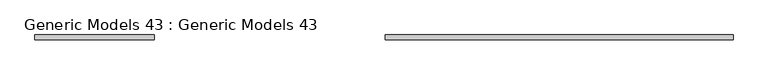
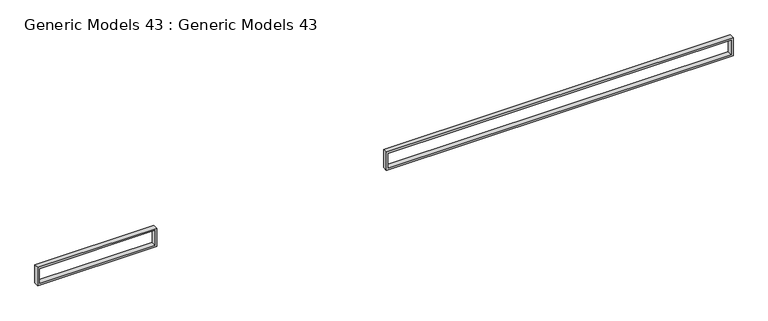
"""IFC4 building model written with IfcOpenShell, lengths in millimetres: proxy geometry, Generic Models 43 : Generic Models 43."""

from ifc_helpers import new_model, si_unit, frame, origin, place, context, project, spatial, polyline, outline, extrude, source, transform, mapped, element, save


def generic_models_43_generic_models_43_56a40571(model_context):
    return source(origin(), model_context, "Body", "SweptSolid", [
        extrude(outline(polyline([(52470.0, -99186.8066426), (51470.0, -99186.8066426), (51470.0, -81198.6902477), (52470.0, -81198.6902477), (52470.0, -99186.8066426)]), holes=[polyline([(51570.0, -99086.8066426), (52370.0, -99086.8066426), (52370.0, -81298.6902477), (51570.0, -81298.6902477), (51570.0, -99086.8066426)])]), frame((0.0, 37065.0854127, 0.0), z_axis=(0.0, 1.0, 0.0), x_axis=(0.0, 0.0, 1.0)), (0.0, 0.0, 1.0), 250.0),
        extrude(outline(polyline([(52470.0, -117280.400716), (51470.0, -117280.400716), (51470.0, -111101.8406927), (52470.0, -111101.8406927), (52470.0, -117280.400716)]), holes=[polyline([(51570.0, -117180.400716), (52370.0, -117180.400716), (52370.0, -111201.8406927), (51570.0, -111201.8406927), (51570.0, -117180.400716)])]), frame((0.0, 37065.0854127, 0.0), z_axis=(0.0, 1.0, 0.0), x_axis=(0.0, 0.0, 1.0)), (0.0, 0.0, 1.0), 250.0),
    ])


if __name__ == "__main__":
    model = new_model("IFC4")
    model_context = context("Model", 3, world=origin())
    ifc_project = project(units=[si_unit("LENGTHUNIT", "METRE", prefix="MILLI")], contexts=[model_context])
    site = spatial("IfcSite", under=ifc_project)
    building = spatial("IfcBuilding", under=site)
    placement = place(None, origin())
    generic_models_43_generic_models_43_shape = generic_models_43_generic_models_43_56a40571(model_context)
    element("IfcBuildingElementProxy", 1, Name="Generic Models 43 : Generic Models 43", ObjectType="Generic Models 43 : Generic Models 43", at=placement, inside=building, context=model_context, shape_type="MappedRepresentation", body=[
        mapped(generic_models_43_generic_models_43_shape, transform((0.0, 0.0, 0.0), x_axis=(1.0, 0.0, 0.0), y_axis=(0.0, 1.0, 0.0), z_axis=(0.0, 0.0, 1.0))),
    ])
    save(model, "model.ifc")
